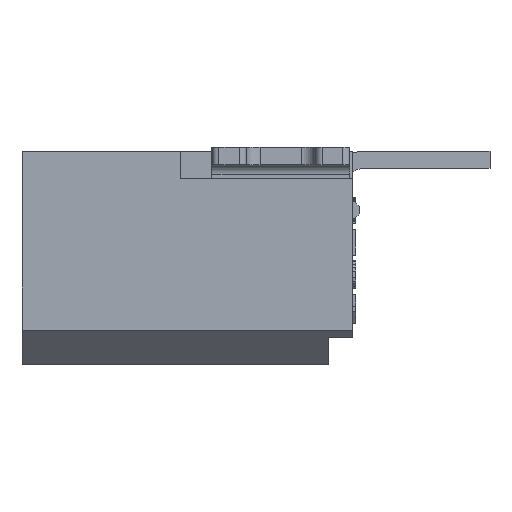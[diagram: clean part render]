
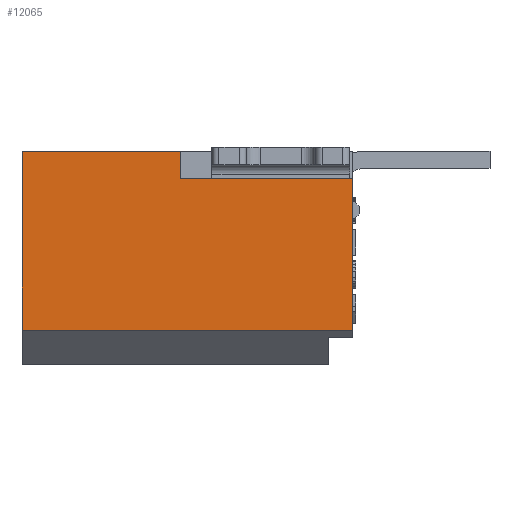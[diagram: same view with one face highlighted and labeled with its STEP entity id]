
A CAD part, left-side view. The second image highlights one B-rep face of the part: STEP entity #12065.
In plain terms, the highlighted planar face has unit normal (-1, 0, 0).
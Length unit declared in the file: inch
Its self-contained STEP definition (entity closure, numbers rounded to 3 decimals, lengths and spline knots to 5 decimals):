
#13=DIRECTION('',(0.,1.,0.));
#14=VECTOR('',#13,2.3);
#15=CARTESIAN_POINT('',(-0.1,-2.3,3.1));
#16=LINE('',#15,#14);
#65=DIRECTION('',(0.,0.,1.));
#66=VECTOR('',#65,2.2);
#67=CARTESIAN_POINT('',(-0.1,-4.8,0.5));
#68=LINE('',#67,#66);
#1954=DIRECTION('',(0.,0.,-1.));
#1955=VECTOR('',#1954,2.6);
#1956=CARTESIAN_POINT('',(-0.1,0.,3.1));
#1957=LINE('',#1956,#1955);
#2066=DIRECTION('',(0.,-1.,0.));
#2067=VECTOR('',#2066,4.8);
#2068=CARTESIAN_POINT('',(-0.1,0.,0.5));
#2069=LINE('',#2068,#2067);
#2074=DIRECTION('',(0.,-1.,0.));
#2075=VECTOR('',#2074,2.5);
#2076=CARTESIAN_POINT('',(-0.1,-2.3,2.7));
#2077=LINE('',#2076,#2075);
#2078=DIRECTION('',(0.,0.,-1.));
#2079=VECTOR('',#2078,0.4);
#2080=CARTESIAN_POINT('',(-0.1,-2.3,3.1));
#2081=LINE('',#2080,#2079);
#7353=CARTESIAN_POINT('',(-0.1,-2.3,3.1));
#7354=VERTEX_POINT('',#7353);
#7355=CARTESIAN_POINT('',(-0.1,0.,3.1));
#7356=VERTEX_POINT('',#7355);
#7375=CARTESIAN_POINT('',(-0.1,-4.8,0.5));
#7376=VERTEX_POINT('',#7375);
#7377=CARTESIAN_POINT('',(-0.1,-4.8,2.7));
#7378=VERTEX_POINT('',#7377);
#7905=CARTESIAN_POINT('',(-0.1,0.,0.5));
#7906=VERTEX_POINT('',#7905);
#8113=CARTESIAN_POINT('',(-0.1,-2.3,2.7));
#8114=VERTEX_POINT('',#8113);
#12050=CARTESIAN_POINT('',(-0.1,-2.4,1.8));
#12051=DIRECTION('',(1.,0.,0.));
#12052=DIRECTION('',(0.,0.,1.));
#12053=AXIS2_PLACEMENT_3D('',#12050,#12051,#12052);
#12054=PLANE('',#12053);
#12056=ORIENTED_EDGE('',*,*,#12055,.T.);
#12057=ORIENTED_EDGE('',*,*,#9738,.F.);
#12058=ORIENTED_EDGE('',*,*,#12042,.F.);
#12059=ORIENTED_EDGE('',*,*,#11923,.F.);
#12060=ORIENTED_EDGE('',*,*,#9693,.F.);
#12062=ORIENTED_EDGE('',*,*,#12061,.T.);
#12063=EDGE_LOOP('',(#12056,#12057,#12058,#12059,#12060,#12062));
#12064=FACE_OUTER_BOUND('',#12063,.F.);
#9693=EDGE_CURVE('',#7354,#7356,#16,.T.);
#9738=EDGE_CURVE('',#7376,#7378,#68,.T.);
#11923=EDGE_CURVE('',#7356,#7906,#1957,.T.);
#12042=EDGE_CURVE('',#7906,#7376,#2069,.T.);
#12055=EDGE_CURVE('',#8114,#7378,#2077,.T.);
#12061=EDGE_CURVE('',#7354,#8114,#2081,.T.);
#12065=ADVANCED_FACE('',(#12064),#12054,.F.);
